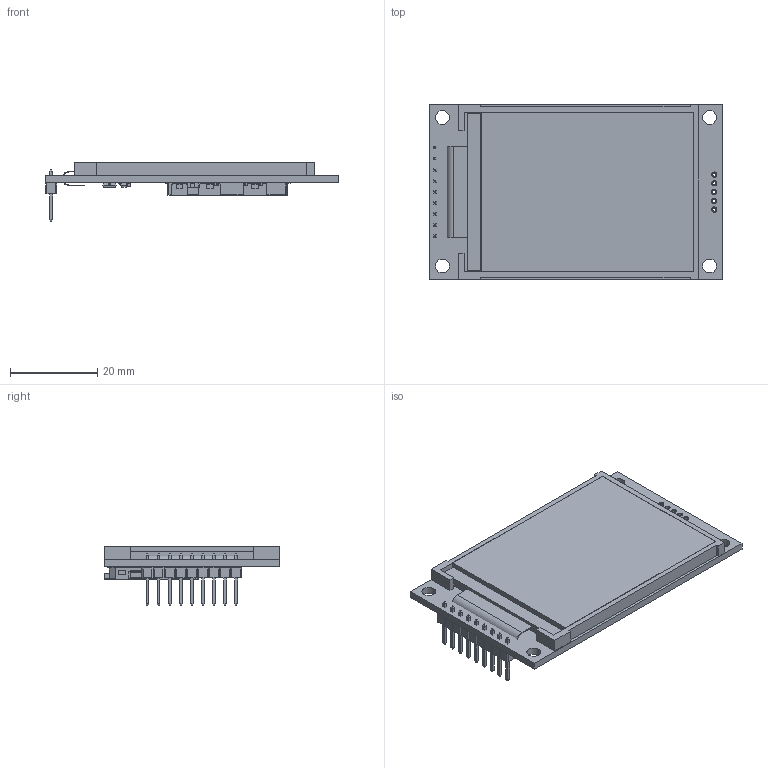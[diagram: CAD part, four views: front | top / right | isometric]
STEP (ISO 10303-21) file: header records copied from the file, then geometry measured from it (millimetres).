
FILE_DESCRIPTION(('FreeCAD Model'),'2;1');
FILE_NAME('//JOELLYSERVER1/Public/Arduino/CAD_Modelle/StepDaten/TFT.stp' ,'2019-02-17T01:23:18',('Author'),(''), 'Open CASCADE STEP processor 7.2','FreeCAD','Unknown');
FILE_SCHEMA(('AUTOMOTIVE_DESIGN { 1 0 10303 214 1 1 1 1 }'));
Length unit declared in the file: millimetre
Products named in the file (20): COMPOUND007; SOLID001; Loetauge001; Loetauge002; Loetauge004; Loetauge003; Sketch003; Loetauge005; 9_Pin_Header; SD_Card_Slot; PZ_TransistorSMD; COMPOUND005; Pad010; PZ_TransistorSMD001; Extrude002; Display001; DisplayConnecter001; Body003; COMPOUND004; COMPOUND006
Bounding box: 67.25 x 40.29 x 13.59 mm (x, y, z)
Volume: 11258.5 mm3; surface area: 14787 mm2
Topology: 27 solids, 27 shells, 1288 faces, 4499 edges, 6526 vertices
Faces by surface type: plane 1034, cylinder 246, sphere 8
Full cylindrical faces by diameter (mm): 0.8 x10, 1.2 x5, 1.6 x3, 3.2 x4
Entity records: 107595 total; most frequent: CARTESIAN_POINT 22412, DIRECTION 14256, LINE 9979, VECTOR 9979, ORIENTED_EDGE 6798, PCURVE 6798, DEFINITIONAL_REPRESENTATION 6798, EDGE_CURVE 3399
